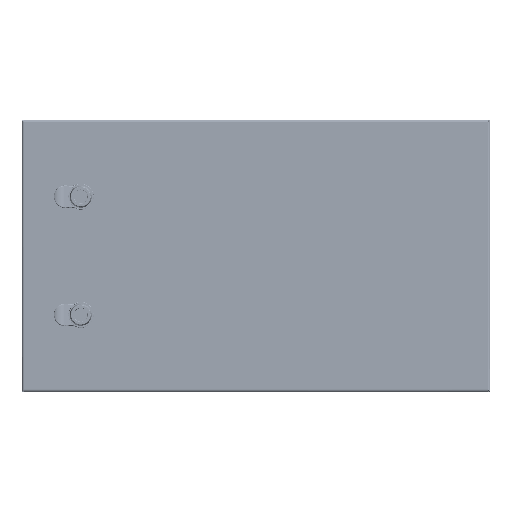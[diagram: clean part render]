
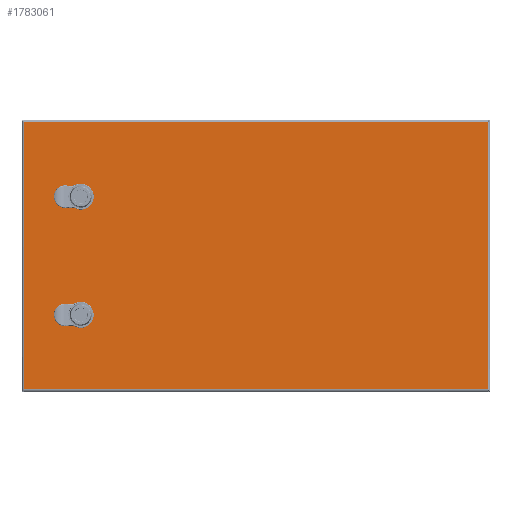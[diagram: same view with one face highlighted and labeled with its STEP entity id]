
A CAD part, top view. The second image highlights one B-rep face of the part: STEP entity #1783061.
In plain terms, the highlighted planar face has unit normal (0, 0, 1).
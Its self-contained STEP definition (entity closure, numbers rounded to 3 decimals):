
#1777311=CARTESIAN_POINT(' ',(289.389,172.733,333.103));
#1777312=VERTEX_POINT(' ',#1777311);
#1777976=CARTESIAN_POINT(' ',(289.389,-166.667,333.103));
#1777977=VERTEX_POINT(' ',#1777976);
#1778821=CARTESIAN_POINT(' ',(289.389,172.733,333.103));
#1778826=DIRECTION(' ',(0.,-1.,0.));
#1778831=VECTOR(' ',#1778826,1.);
#1778836=LINE('',#1778821,#1778831);
#1778841=EDGE_CURVE(' ',#1777312,#1777977,#1778836,.T.);
#1780826=CARTESIAN_POINT(' ',(-299.011,-166.667,333.103));
#1780827=VERTEX_POINT(' ',#1780826);
#1781261=CARTESIAN_POINT(' ',(-299.011,172.733,333.103));
#1781262=VERTEX_POINT(' ',#1781261);
#1782931=DIRECTION(' ',(-0.,-0.,1.));
#1782936=CARTESIAN_POINT(' ',(289.389,-166.667,333.103));
#1782941=DIRECTION(' ',(0.,1.,0.));
#1782946=AXIS2_PLACEMENT_3D(' ',#1782936,#1782931,#1782941);
#1782951=PLANE('NONE',#1782946);
#1782956=CARTESIAN_POINT(' ',(-299.011,-166.667,333.103));
#1782961=DIRECTION(' ',(1.,0.,0.));
#1782966=VECTOR(' ',#1782961,1.);
#1782971=LINE('',#1782956,#1782966);
#1782976=EDGE_CURVE(' ',#1780827,#1777977,#1782971,.T.);
#1782981=ORIENTED_EDGE(' ',*,*,#1782976,.T.);
#1782986=ORIENTED_EDGE(' ',*,*,#1778841,.F.);
#1782991=CARTESIAN_POINT(' ',(289.389,172.733,333.103));
#1782996=DIRECTION(' ',(-1.,0.,0.));
#1783001=VECTOR(' ',#1782996,1.);
#1783006=LINE('',#1782991,#1783001);
#1783011=EDGE_CURVE(' ',#1777312,#1781262,#1783006,.T.);
#1783016=ORIENTED_EDGE(' ',*,*,#1783011,.T.);
#1783021=CARTESIAN_POINT(' ',(-299.011,172.733,333.103));
#1783026=DIRECTION(' ',(0.,-1.,0.));
#1783031=VECTOR(' ',#1783026,1.);
#1783036=LINE('',#1783021,#1783031);
#1783041=EDGE_CURVE(' ',#1781262,#1780827,#1783036,.T.);
#1783046=ORIENTED_EDGE(' ',*,*,#1783041,.T.);
#1783051=EDGE_LOOP(' ',(#1782981,#1782986,#1783016,#1783046));
#1783056=FACE_OUTER_BOUND(' ',#1783051,.T.);
#1783061=ADVANCED_FACE('NONE',(#1783056),#1782951,.T.);
